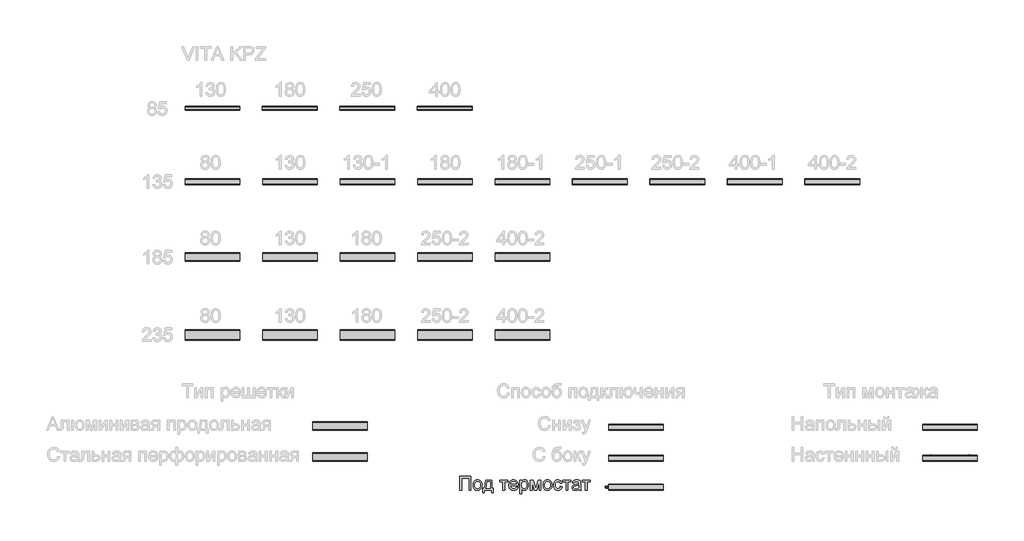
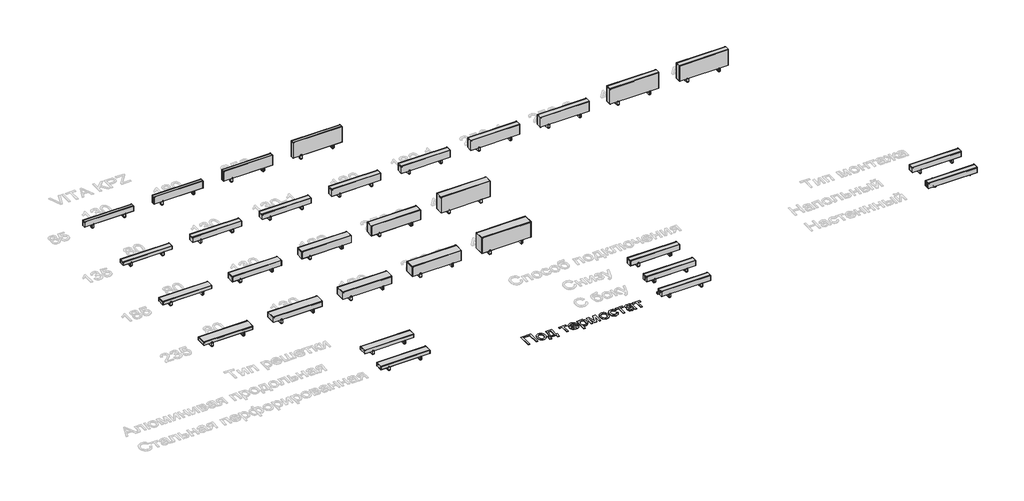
# One storey, part 1 of 7: 61 proxies.
"""IFC4 building model written with IfcOpenShell, lengths in millimetres."""

from ifc_helpers import new_model, si_unit, origin, origin_with_axes, place, context, project, spatial, polyline, outline, extrude, transform, mapped, element, save
from components import mechanical_equipment_40654a80, mechanical_equipment_db04607c, mechanical_equipment_164f5ea8, mechanical_equipment_e0287927, mechanical_equipment_76ebc389, mechanical_equipment_0ab18733, mechanical_equipment_10a3fbf6, mechanical_equipment_058be763, mechanical_equipment_164569aa, mechanical_equipment_349224de, mechanical_equipment_2dd0603b, mechanical_equipment_47e8f98e, mechanical_equipment_bd93af03, mechanical_equipment_14c08a24, mechanical_equipment_f7afe81f, mechanical_equipment_9682c6bd, mechanical_equipment_25f90fc9, mechanical_equipment_933cd87b, mechanical_equipment_312a6962, mechanical_equipment_f0267359, mechanical_equipment_60c2d6ec, mechanical_equipment_5ba0c7e1, mechanical_equipment_a01b45b6, mechanical_equipment_b469c673, mechanical_equipment_51376e17, mechanical_equipment_784c2f27, mechanical_equipment_c19d1119, mechanical_equipment_4ccbe27a, mechanical_equipment_49690355, mechanical_equipment_8d609455, mechanical_equipment_16d1fad6, mechanical_equipment_ce08395b, mechanical_equipment_52e8bd0e, mechanical_equipment_f758acba, mechanical_equipment_9ef73769, mechanical_equipment_a416251b, mechanical_equipment_428bca93, mechanical_equipment_6e3047bc, mechanical_equipment_4baf3725, mechanical_equipment_82ee95b5, kpz_135_80_52dbe980, kpz_185_80_cd63fb03, kpz_235_80_92b68958, kpz_85_130_eb719850, kpz_85_180_26914a68, kpz_85_250_7eb617d8, kpz_85_400_00b2fc51

model = new_model("IFC4")

# Units and contexts
model_context = context("Model", 3, world=origin())
ifc_project = project(units=[si_unit("LENGTHUNIT", "METRE", prefix="MILLI")], contexts=[model_context])

# Site, building, storey
site = spatial("IfcSite", under=ifc_project)
building = spatial("IfcBuilding", under=site)
storey = spatial("IfcBuildingStorey", under=building, Name="Уровень 1", Elevation=0.0)

# Proxies
placement = place(None, origin())
element("IfcBuildingElementProxy", 1, Name="Текст модели 1", ObjectType="Текст модели 1", at=placement, inside=storey, context=model_context, shape_type="SweptSolid", body=[
    extrude(outline(polyline([(7154.7775288, -7880.7406166), (7390.2220057, -7880.7406166), (7390.2220057, -8182.1095471), (7352.5508894, -8182.1095471), (7352.5508894, -7918.4117329), (7192.4486451, -7918.4117329), (7192.4486451, -8182.1095471), (7154.7775288, -8182.1095471), (7154.7775288, -7880.7406166)])), origin_with_axes(), (0.0, 0.0, 1.0), 10.0),
    extrude(outline(polyline([(7442.0197907, -8071.4506429), (7444.0569372, -8042.788037), (7450.1683769, -8018.0893595), (7460.3541096, -7997.3546106), (7474.6141354, -7980.5837901), (7488.9707303, -7969.8646285), (7504.8172472, -7962.2080845), (7522.1536863, -7957.6141581), (7540.9800474, -7956.0828492), (7561.7630808, -7957.9475511), (7580.554953, -7963.5416567), (7597.3556639, -7972.865166), (7612.1652134, -7985.9180791), (7624.2524362, -8002.2589374), (7632.8861668, -8021.4462827), (7638.0664052, -8043.480115), (7639.7931513, -8068.3604342), (7636.7397307, -8106.4178266), (7627.579469, -8135.3885337), (7612.5790807, -8157.0843744), (7592.0052801, -8173.3171674), (7567.5687186, -8183.4431193), (7540.9800474, -8186.8184366), (7519.8935113, -8184.9606325), (7500.9268951, -8179.3872203), (7484.080199, -8170.0981999), (7469.3534229, -8157.0935714), (7457.3949588, -8140.5940639), (7448.8531987, -8120.8204067), (7443.7281427, -8097.7725997), (7442.0197907, -8071.4506429)]), holes=[polyline([(7479.690907, -8071.3770665), (7484.0503086, -8105.4705304), (7497.1285135, -8129.7599392), (7516.8102003, -8144.300475), (7540.9800474, -8149.1473203), (7565.0395299, -8144.2728839), (7584.6844284, -8129.6495746), (7597.7626333, -8105.0382691), (7602.122035, -8070.1998442), (7597.7350422, -8037.0996616), (7584.5740638, -8013.1413467), (7564.9015741, -7998.6008108), (7540.9800474, -7993.7539656), (7516.8102003, -7998.5824167), (7497.1285135, -8013.0677703), (7484.0503086, -8037.3019967), (7479.690907, -8071.3770665)])]), origin_with_axes(), (0.0, 0.0, 1.0), 10.0),
    extrude(outline(polyline([(7715.1353839, -7960.7917388), (7856.40207, -7960.7917388), (7856.40207, -8144.4384308), (7884.6554073, -8144.4384308), (7884.6554073, -8243.3251111), (7846.984291, -8243.3251111), (7846.984291, -8182.1095471), (7691.5909362, -8182.1095471), (7691.5909362, -8243.3251111), (7653.9198199, -8243.3251111), (7653.9198199, -8144.4384308), (7677.4642676, -8144.4384308), (7694.5799774, -8113.508752), (7706.5637334, -8072.5910771), (7713.4155356, -8021.685406), (7715.1353839, -7960.7917388)]), holes=[polyline([(7748.0976107, -7998.4628551), (7745.0074019, -8044.5860602), (7739.2684428, -8084.2897246), (7730.8807333, -8117.5738481), (7719.8442734, -8144.4384308), (7818.7309537, -8144.4384308), (7818.7309537, -7998.4628551), (7748.0976107, -7998.4628551)])]), origin_with_axes(), (0.0, 0.0, 1.0), 10.0),
    extrude(outline(polyline([(8025.9220934, -7960.7917388), (8204.8598959, -7960.7917388), (8204.8598959, -7998.4628551), (8134.2265528, -7998.4628551), (8134.2265528, -8182.1095471), (8096.5554365, -8182.1095471), (8096.5554365, -7998.4628551), (8025.9220934, -7998.4628551), (8025.9220934, -7960.7917388)])), origin_with_axes(), (0.0, 0.0, 1.0), 10.0),
    extrude(outline(polyline([(8392.774019, -8116.1850935), (8429.7093713, -8120.8939831), (8416.4012401, -8148.724256), (8395.165252, -8169.5279828), (8366.4796534, -8182.4958232), (8330.822691, -8186.8184366), (8307.4483887, -8184.9537348), (8286.6216693, -8179.3596292), (8268.3425327, -8170.0361199), (8252.6109788, -8156.9832068), (8239.9604367, -8140.5641735), (8230.9243352, -8121.1423034), (8225.5026743, -8098.7175966), (8223.695454, -8073.2900529), (8225.5210684, -8047.0002858), (8230.9979116, -8023.8283187), (8240.1259836, -8003.7741514), (8252.9052844, -7986.837784), (8268.5954515, -7973.3825001), (8286.4561224, -7963.7715829), (8306.487297, -7958.0050327), (8328.6889754, -7956.0828492), (8350.1755832, -7958.0004341), (8369.6066504, -7963.7531888), (8386.9821768, -7973.3411133), (8402.3021627, -7986.7642076), (8414.8078513, -8003.6637868), (8423.7404859, -8023.6811659), (8429.1000668, -8046.8163448), (8430.8865937, -8073.0693237), (8430.6658645, -8083.2228668), (8261.3665703, -8083.2228668), (8267.8872787, -8111.4210217), (8283.0348198, -8132.1511721), (8304.8962074, -8144.8982833), (8331.558455, -8149.1473203), (8351.6080237, -8147.1791516), (8368.4938073, -8141.2746456), (8382.2158057, -8131.0659203), (8392.774019, -8116.1850935)]), holes=[polyline([(8261.3665703, -8045.5517505), (8393.2154774, -8045.5517505), (8388.1203118, -8025.6493345), (8378.1323156, -8011.4123013), (8356.1697605, -7998.1685495), (8328.5418226, -7993.7539656), (8303.1487679, -7997.2764357), (8282.1519031, -8007.843846), (8267.5561849, -8024.3157623), (8261.3665703, -8045.5517505)])]), origin_with_axes(), (0.0, 0.0, 1.0), 10.0),
    extrude(outline(polyline([(8468.55771, -8266.8695588), (8468.55771, -7960.7917388), (8506.2288263, -7960.7917388), (8506.2288263, -7997.7270911), (8518.516085, -7979.5077353), (8532.2748716, -7966.4939097), (8548.3145266, -7958.6856144), (8567.4443903, -7956.0828492), (8592.9202185, -7959.724881), (8615.1954733, -7970.6509763), (8633.3320556, -7988.1989474), (8646.3918665, -8011.7066069), (8654.2829353, -8039.4633035), (8656.9132915, -8069.7583858), (8653.9426444, -8101.9756515), (8645.0307031, -8130.7900088), (8630.4625761, -8154.7391266), (8610.5233719, -8172.3606742), (8587.300821, -8183.203996), (8562.8826536, -8186.8184366), (8545.5646086, -8184.3996125), (8530.1043678, -8177.1431401), (8516.869813, -8166.1894537), (8506.2288263, -8152.6789875), (8506.2288263, -8266.8695588), (8468.55771, -8266.8695588)]), holes=[polyline([(8506.2288263, -8073.2164765), (8510.3031194, -8106.9880437), (8522.5259987, -8130.6060678), (8540.5614135, -8144.5120072), (8562.0733132, -8149.1473203), (8583.9347007, -8144.3464603), (8602.4299681, -8129.9438802), (8615.0391234, -8105.4613334), (8619.2421752, -8070.4205733), (8615.140291, -8036.8329472), (8602.8346382, -8012.8838293), (8584.8268146, -7998.5364315), (8563.6184176, -7993.7539656), (8542.3272471, -7998.8399341), (8523.6296447, -8014.0978399), (8510.5790309, -8039.0494362), (8506.2288263, -8073.2164765)])]), origin_with_axes(), (0.0, 0.0, 1.0), 10.0),
    extrude(outline(polyline([(8699.2932974, -7960.7917388), (8764.1141049, -7960.7917388), (8814.0724799, -8137.9637077), (8867.930404, -7960.7917388), (8930.0288848, -7960.7917388), (8930.0288848, -8182.1095471), (8892.3577685, -8182.1095471), (8892.3577685, -8003.9075086), (8838.2055388, -8182.1095471), (8788.7621986, -8182.1095471), (8736.9644137, -7995.3726463), (8736.9644137, -8182.1095471), (8699.2932974, -8182.1095471), (8699.2932974, -7960.7917388)])), origin_with_axes(), (0.0, 0.0, 1.0), 10.0),
    extrude(outline(polyline([(8977.1177801, -8071.4506429), (8979.1549267, -8042.788037), (8985.2663663, -8018.0893595), (8995.4520991, -7997.3546106), (9009.7121249, -7980.5837901), (9024.0687198, -7969.8646285), (9039.9152367, -7962.2080845), (9057.2516757, -7957.6141581), (9076.0780368, -7956.0828492), (9096.8610703, -7957.9475511), (9115.6529425, -7963.5416567), (9132.4536533, -7972.865166), (9147.2632029, -7985.9180791), (9159.3504257, -8002.2589374), (9167.9841563, -8021.4462827), (9173.1643946, -8043.480115), (9174.8911407, -8068.3604342), (9171.8377202, -8106.4178266), (9162.6774585, -8135.3885337), (9147.6770702, -8157.0843744), (9127.1032696, -8173.3171674), (9102.666708, -8183.4431193), (9076.0780368, -8186.8184366), (9054.9915007, -8184.9606325), (9036.0248846, -8179.3872203), (9019.1781885, -8170.0981999), (9004.4514124, -8157.0935714), (8992.4929483, -8140.5940639), (8983.9511882, -8120.8204067), (8978.8261322, -8097.7725997), (8977.1177801, -8071.4506429)]), holes=[polyline([(9014.7888964, -8071.3770665), (9019.1482981, -8105.4705304), (9032.226503, -8129.7599392), (9051.9081898, -8144.300475), (9076.0780368, -8149.1473203), (9100.1375193, -8144.2728839), (9119.7824179, -8129.6495746), (9132.8606228, -8105.0382691), (9137.2200244, -8070.1998442), (9132.8330317, -8037.0996616), (9119.6720533, -8013.1413467), (9099.9995636, -7998.6008108), (9076.0780368, -7993.7539656), (9051.9081898, -7998.5824167), (9032.226503, -8013.0677703), (9019.1482981, -8037.3019967), (9014.7888964, -8071.3770665)])]), origin_with_axes(), (0.0, 0.0, 1.0), 10.0),
    extrude(outline(polyline([(9358.5378327, -8102.0584249), (9396.208949, -8106.7673145), (9385.7059181, -8140.2721672), (9365.969049, -8165.5916455), (9338.856146, -8181.5117388), (9306.225013, -8186.8184366), (9285.0970902, -8184.9675303), (9266.1534667, -8179.4148115), (9249.3941426, -8170.16028), (9234.8191178, -8157.203936), (9223.021602, -8140.7895012), (9214.5948051, -8121.1606975), (9209.5387269, -8098.3175249), (9207.8533675, -8072.2599833), (9210.7320441, -8038.7367365), (9219.368074, -8009.6832559), (9233.8994128, -7986.2215817), (9254.4640163, -7969.4737539), (9279.0661247, -7959.4305754), (9305.7099782, -7956.0828492), (9337.5409679, -7960.6813742), (9362.9892049, -7974.476949), (9381.2453489, -7996.7338097), (9391.5000595, -8026.7161923), (9353.8289432, -8031.4250819), (9346.9955351, -8014.9899537), (9336.3545484, -8003.2085328), (9322.4945943, -7996.1176074), (9306.0042838, -7993.7539656), (9281.6596928, -7998.4076728), (9262.336691, -8012.3687945), (9249.7275356, -8036.3914888), (9245.5244838, -8071.2299137), (9249.6355651, -8106.5373882), (9261.968809, -8130.642856), (9280.9423229, -8144.5212042), (9304.9742142, -8149.1473203), (9324.481157, -8146.2594467), (9340.4748268, -8137.5958257), (9352.1090949, -8122.9357282), (9358.5378327, -8102.0584249)])), origin_with_axes(), (0.0, 0.0, 1.0), 10.0),
    extrude(outline(polyline([(9410.3356177, -7960.7917388), (9589.2734201, -7960.7917388), (9589.2734201, -7998.4628551), (9518.640077, -7998.4628551), (9518.640077, -8182.1095471), (9480.9689607, -8182.1095471), (9480.9689607, -7998.4628551), (9410.3356177, -7998.4628551), (9410.3356177, -7960.7917388)])), origin_with_axes(), (0.0, 0.0, 1.0), 10.0),
    extrude(outline(polyline([(9763.502333, -8153.8562099), (9745.5037064, -8169.2888596), (9726.9716509, -8179.3872203), (9707.4831022, -8184.9606325), (9686.614996, -8186.8184366), (9655.1334943, -8182.3486704), (9631.9109434, -8168.9393717), (9617.5911367, -8148.5771032), (9612.8178678, -8123.2484279), (9614.6204896, -8107.6318372), (9620.0283549, -8093.4499862), (9628.3700792, -8081.3098804), (9638.9742777, -8071.8185249), (9665.3514167, -8059.4576899), (9697.9457615, -8053.7923072), (9736.4630064, -8047.8326188), (9763.2816038, -8040.8428609), (9763.502333, -8032.4551514), (9760.908765, -8015.6429443), (9753.1280608, -8004.6432726), (9735.7272424, -7996.4762923), (9711.4838189, -7993.7539656), (9689.0430172, -7995.5657844), (9673.3712442, -8001.0012409), (9662.6842723, -8011.0536164), (9655.1978737, -8026.7161923), (9617.5267573, -8022.0073028), (9624.0658598, -8001.4059111), (9633.8239297, -7985.2191033), (9647.711475, -7972.8398741), (9666.6390037, -7963.6612183), (9689.7879782, -7957.9774415), (9716.3398612, -7956.0828492), (9741.8064924, -7957.7567123), (9761.9940169, -7962.7783016), (9777.2151344, -7970.3290795), (9787.7825447, -7979.5905087), (9794.7906967, -7991.0408358), (9799.3340394, -8005.1583074), (9801.1734493, -8038.1205342), (9801.1734493, -8084.9887004), (9803.0864357, -8150.4349073), (9810.5912284, -8182.1095471), (9772.9201121, -8182.1095471), (9763.502333, -8153.8562099)]), holes=[polyline([(9763.502333, -8078.5139772), (9702.7282274, -8090.0654719), (9670.3178237, -8096.172313), (9655.639332, -8106.1051269), (9650.4889841, -8120.5996775), (9653.2940843, -8131.8016842), (9661.709385, -8140.98034), (9675.550945, -8147.1055752), (9694.6348235, -8149.1473203), (9714.8683333, -8146.8940431), (9732.7473982, -8140.1342114), (9747.2419488, -8130.1738064), (9757.3219155, -8118.3188091), (9761.7916818, -8106.1051269), (9763.2816038, -8089.1825551), (9763.502333, -8078.5139772)])]), origin_with_axes(), (0.0, 0.0, 1.0), 10.0),
    extrude(outline(polyline([(9834.1356761, -7960.7917388), (10013.0734786, -7960.7917388), (10013.0734786, -7998.4628551), (9942.4401355, -7998.4628551), (9942.4401355, -8182.1095471), (9904.7690192, -8182.1095471), (9904.7690192, -7998.4628551), (9834.1356761, -7998.4628551), (9834.1356761, -7960.7917388)])), origin_with_axes(), (0.0, 0.0, 1.0), 10.0),
])
mechanical_equipment_shape = mechanical_equipment_40654a80(model_context)
element("IfcBuildingElementProxy", 2, Name="Vita_Решетка : РАП_Алюминиевая продольная", ObjectType="Vita_Решетка : РАП_Алюминиевая продольная", at=placement, inside=storey, context=model_context, shape_type="MappedRepresentation", body=[
    mapped(mechanical_equipment_shape, transform((1722.9108966, 336.4889515, 0.0), x_axis=(1.0, 0.0, 0.0), y_axis=(0.0, 1.0, 0.0), z_axis=(0.0, 0.0, 1.0))),
])
mechanical_equipment_2_shape = mechanical_equipment_db04607c(model_context)
element("IfcBuildingElementProxy", 3, Name="Vita_Решетка : РАП_Алюминиевая продольная", ObjectType="Vita_Решетка : РАП_Алюминиевая продольная", at=placement, inside=storey, context=model_context, shape_type="MappedRepresentation", body=[
    mapped(mechanical_equipment_2_shape, transform((3418.9108966, 336.4889515, 0.0), x_axis=(1.0, 0.0, 0.0), y_axis=(0.0, 1.0, 0.0), z_axis=(0.0, 0.0, 1.0))),
])
mechanical_equipment_3_shape = mechanical_equipment_164f5ea8(model_context)
element("IfcBuildingElementProxy", 4, Name="Vita_Решетка : РАП_Алюминиевая продольная", ObjectType="Vita_Решетка : РАП_Алюминиевая продольная", at=placement, inside=storey, context=model_context, shape_type="MappedRepresentation", body=[
    mapped(mechanical_equipment_3_shape, transform((5118.9108966, 336.4889515, 0.0), x_axis=(1.0, 0.0, 0.0), y_axis=(0.0, 1.0, 0.0), z_axis=(0.0, 0.0, 1.0))),
])
mechanical_equipment_4_shape = mechanical_equipment_e0287927(model_context)
element("IfcBuildingElementProxy", 5, Name="Vita_Решетка : РАП_Алюминиевая продольная", ObjectType="Vita_Решетка : РАП_Алюминиевая продольная", at=placement, inside=storey, context=model_context, shape_type="MappedRepresentation", body=[
    mapped(mechanical_equipment_4_shape, transform((6818.9108966, 336.4889515, 0.0), x_axis=(1.0, 0.0, 0.0), y_axis=(0.0, 1.0, 0.0), z_axis=(0.0, 0.0, 1.0))),
])
mechanical_equipment_5_shape = mechanical_equipment_76ebc389(model_context)
element("IfcBuildingElementProxy", 6, Name="Vita_Решетка : РАП_Алюминиевая продольная", ObjectType="Vita_Решетка : РАП_Алюминиевая продольная", at=placement, inside=storey, context=model_context, shape_type="MappedRepresentation", body=[
    mapped(mechanical_equipment_5_shape, transform((1722.9108966, -1246.9833275, 0.0), x_axis=(1.0, 0.0, 0.0), y_axis=(0.0, 1.0, 0.0), z_axis=(0.0, 0.0, 1.0))),
])
mechanical_equipment_6_shape = mechanical_equipment_0ab18733(model_context)
element("IfcBuildingElementProxy", 7, Name="TECHNO_Конвектор напольный_Vita KPZ 135 : KPZ 135-130", ObjectType="TECHNO_Конвектор напольный_Vita KPZ 135 : KPZ 135-130", at=placement, inside=storey, context=model_context, shape_type="MappedRepresentation", body=[
    mapped(mechanical_equipment_6_shape, transform((3422.9108966, -1246.9833275, 0.0), x_axis=(1.0, 0.0, 0.0), y_axis=(0.0, 1.0, 0.0), z_axis=(0.0, 0.0, 1.0))),
])
element("IfcBuildingElementProxy", 8, Name="TECHNO_Конвектор напольный_Vita KPZ 135 : KPZ 135-130", ObjectType="TECHNO_Конвектор напольный_Vita KPZ 135 : KPZ 135-130", at=placement, inside=storey, context=model_context, shape_type="MappedRepresentation", body=[
    mapped(mechanical_equipment_6_shape, transform((11017.3437899, -6633.8180768, 0.0), x_axis=(1.0, 0.0, 0.0), y_axis=(0.0, 1.0, 0.0), z_axis=(0.0, 0.0, 1.0))),
])
element("IfcBuildingElementProxy", 9, Name="TECHNO_Конвектор напольный_Vita KPZ 135 : KPZ 135-130", ObjectType="TECHNO_Конвектор напольный_Vita KPZ 135 : KPZ 135-130", at=placement, inside=storey, context=model_context, shape_type="MappedRepresentation", body=[
    mapped(mechanical_equipment_6_shape, transform((17906.3437899, -6633.8180768, 0.0), x_axis=(1.0, 0.0, 0.0), y_axis=(0.0, 1.0, 0.0), z_axis=(0.0, 0.0, 1.0))),
])
mechanical_equipment_7_shape = mechanical_equipment_10a3fbf6(model_context)
element("IfcBuildingElementProxy", 10, Name="Vita_Решетка : РАП_Алюминиевая продольная", ObjectType="Vita_Решетка : РАП_Алюминиевая продольная", at=placement, inside=storey, context=model_context, shape_type="MappedRepresentation", body=[
    mapped(mechanical_equipment_7_shape, transform((3422.9108966, -1246.9833275, 0.0), x_axis=(1.0, 0.0, 0.0), y_axis=(0.0, 1.0, 0.0), z_axis=(0.0, 0.0, 1.0))),
])
element("IfcBuildingElementProxy", 11, Name="Vita_Решетка : РАП_Алюминиевая продольная", ObjectType="Vita_Решетка : РАП_Алюминиевая продольная", at=placement, inside=storey, context=model_context, shape_type="MappedRepresentation", body=[
    mapped(mechanical_equipment_7_shape, transform((5122.9108966, -1246.9833275, 0.0), x_axis=(1.0, 0.0, 0.0), y_axis=(0.0, 1.0, 0.0), z_axis=(0.0, 0.0, 1.0))),
])
element("IfcBuildingElementProxy", 12, Name="Vita_Решетка : РАП_Алюминиевая продольная", ObjectType="Vita_Решетка : РАП_Алюминиевая продольная", at=placement, inside=storey, context=model_context, shape_type="MappedRepresentation", body=[
    mapped(mechanical_equipment_7_shape, transform((11017.3437899, -6633.8180768, 0.0), x_axis=(1.0, 0.0, 0.0), y_axis=(0.0, 1.0, 0.0), z_axis=(0.0, 0.0, 1.0))),
])
element("IfcBuildingElementProxy", 13, Name="Vita_Решетка : РАП_Алюминиевая продольная", ObjectType="Vita_Решетка : РАП_Алюминиевая продольная", at=placement, inside=storey, context=model_context, shape_type="MappedRepresentation", body=[
    mapped(mechanical_equipment_7_shape, transform((11017.3437899, -7314.2691255, 0.0), x_axis=(1.0, 0.0, 0.0), y_axis=(0.0, 1.0, 0.0), z_axis=(0.0, 0.0, 1.0))),
])
element("IfcBuildingElementProxy", 14, Name="Vita_Решетка : РАП_Алюминиевая продольная", ObjectType="Vita_Решетка : РАП_Алюминиевая продольная", at=placement, inside=storey, context=model_context, shape_type="MappedRepresentation", body=[
    mapped(mechanical_equipment_7_shape, transform((11017.3437899, -7948.1095471, 0.0), x_axis=(1.0, 0.0, 0.0), y_axis=(0.0, 1.0, 0.0), z_axis=(0.0, 0.0, 1.0))),
])
element("IfcBuildingElementProxy", 15, Name="Vita_Решетка : РАП_Алюминиевая продольная", ObjectType="Vita_Решетка : РАП_Алюминиевая продольная", at=placement, inside=storey, context=model_context, shape_type="MappedRepresentation", body=[
    mapped(mechanical_equipment_7_shape, transform((17906.3437899, -6633.8180768, 0.0), x_axis=(1.0, 0.0, 0.0), y_axis=(0.0, 1.0, 0.0), z_axis=(0.0, 0.0, 1.0))),
])
mechanical_equipment_8_shape = mechanical_equipment_058be763(model_context)
element("IfcBuildingElementProxy", 16, Name="TECHNO_Конвектор напольный_Vita KPZ 135 : KPZ 135-130-1", ObjectType="TECHNO_Конвектор напольный_Vita KPZ 135 : KPZ 135-130-1", at=placement, inside=storey, context=model_context, shape_type="MappedRepresentation", body=[
    mapped(mechanical_equipment_8_shape, transform((5122.9108966, -1246.9833275, 0.0), x_axis=(1.0, 0.0, 0.0), y_axis=(0.0, 1.0, 0.0), z_axis=(0.0, 0.0, 1.0))),
])
mechanical_equipment_9_shape = mechanical_equipment_164569aa(model_context)
element("IfcBuildingElementProxy", 17, Name="TECHNO_Конвектор напольный_Vita KPZ 135 : KPZ 135-180", ObjectType="TECHNO_Конвектор напольный_Vita KPZ 135 : KPZ 135-180", at=placement, inside=storey, context=model_context, shape_type="MappedRepresentation", body=[
    mapped(mechanical_equipment_9_shape, transform((6822.9108966, -1246.9833275, 0.0), x_axis=(1.0, 0.0, 0.0), y_axis=(0.0, 1.0, 0.0), z_axis=(0.0, 0.0, 1.0))),
])
mechanical_equipment_10_shape = mechanical_equipment_349224de(model_context)
element("IfcBuildingElementProxy", 18, Name="Vita_Решетка : РАП_Алюминиевая продольная", ObjectType="Vita_Решетка : РАП_Алюминиевая продольная", at=placement, inside=storey, context=model_context, shape_type="MappedRepresentation", body=[
    mapped(mechanical_equipment_10_shape, transform((6822.9108966, -1246.9833275, 0.0), x_axis=(1.0, 0.0, 0.0), y_axis=(0.0, 1.0, 0.0), z_axis=(0.0, 0.0, 1.0))),
])
element("IfcBuildingElementProxy", 19, Name="Vita_Решетка : РАП_Алюминиевая продольная", ObjectType="Vita_Решетка : РАП_Алюминиевая продольная", at=placement, inside=storey, context=model_context, shape_type="MappedRepresentation", body=[
    mapped(mechanical_equipment_10_shape, transform((8522.9108966, -1246.9833275, 0.0), x_axis=(1.0, 0.0, 0.0), y_axis=(0.0, 1.0, 0.0), z_axis=(0.0, 0.0, 1.0))),
])
mechanical_equipment_11_shape = mechanical_equipment_2dd0603b(model_context)
element("IfcBuildingElementProxy", 20, Name="TECHNO_Конвектор напольный_Vita KPZ 135 : KPZ 135-180-1", ObjectType="TECHNO_Конвектор напольный_Vita KPZ 135 : KPZ 135-180-1", at=placement, inside=storey, context=model_context, shape_type="MappedRepresentation", body=[
    mapped(mechanical_equipment_11_shape, transform((8522.9108966, -1246.9833275, 0.0), x_axis=(1.0, 0.0, 0.0), y_axis=(0.0, 1.0, 0.0), z_axis=(0.0, 0.0, 1.0))),
])
mechanical_equipment_12_shape = mechanical_equipment_47e8f98e(model_context)
element("IfcBuildingElementProxy", 21, Name="TECHNO_Конвектор напольный_Vita KPZ 135 : KPZ 135-250-1", ObjectType="TECHNO_Конвектор напольный_Vita KPZ 135 : KPZ 135-250-1", at=placement, inside=storey, context=model_context, shape_type="MappedRepresentation", body=[
    mapped(mechanical_equipment_12_shape, transform((10222.9108966, -1246.9833275, 0.0), x_axis=(1.0, 0.0, 0.0), y_axis=(0.0, 1.0, 0.0), z_axis=(0.0, 0.0, 1.0))),
])
mechanical_equipment_13_shape = mechanical_equipment_bd93af03(model_context)
element("IfcBuildingElementProxy", 22, Name="Vita_Решетка : РАП_Алюминиевая продольная", ObjectType="Vita_Решетка : РАП_Алюминиевая продольная", at=placement, inside=storey, context=model_context, shape_type="MappedRepresentation", body=[
    mapped(mechanical_equipment_13_shape, transform((10222.9108966, -1246.9833275, 0.0), x_axis=(1.0, 0.0, 0.0), y_axis=(0.0, 1.0, 0.0), z_axis=(0.0, 0.0, 1.0))),
])
element("IfcBuildingElementProxy", 23, Name="Vita_Решетка : РАП_Алюминиевая продольная", ObjectType="Vita_Решетка : РАП_Алюминиевая продольная", at=placement, inside=storey, context=model_context, shape_type="MappedRepresentation", body=[
    mapped(mechanical_equipment_13_shape, transform((11922.9108966, -1246.9833275, 0.0), x_axis=(1.0, 0.0, 0.0), y_axis=(0.0, 1.0, 0.0), z_axis=(0.0, 0.0, 1.0))),
])
mechanical_equipment_14_shape = mechanical_equipment_14c08a24(model_context)
element("IfcBuildingElementProxy", 24, Name="TECHNO_Конвектор напольный_Vita KPZ 135 : KPZ 135-250-2", ObjectType="TECHNO_Конвектор напольный_Vita KPZ 135 : KPZ 135-250-2", at=placement, inside=storey, context=model_context, shape_type="MappedRepresentation", body=[
    mapped(mechanical_equipment_14_shape, transform((11922.9108966, -1246.9833275, 0.0), x_axis=(1.0, 0.0, 0.0), y_axis=(0.0, 1.0, 0.0), z_axis=(0.0, 0.0, 1.0))),
])
mechanical_equipment_15_shape = mechanical_equipment_f7afe81f(model_context)
element("IfcBuildingElementProxy", 25, Name="TECHNO_Конвектор напольный_Vita KPZ 135 : KPZ 135-400-1", ObjectType="TECHNO_Конвектор напольный_Vita KPZ 135 : KPZ 135-400-1", at=placement, inside=storey, context=model_context, shape_type="MappedRepresentation", body=[
    mapped(mechanical_equipment_15_shape, transform((13622.9108966, -1246.9833275, 0.0), x_axis=(1.0, 0.0, 0.0), y_axis=(0.0, 1.0, 0.0), z_axis=(0.0, 0.0, 1.0))),
])
mechanical_equipment_16_shape = mechanical_equipment_9682c6bd(model_context)
element("IfcBuildingElementProxy", 26, Name="Vita_Решетка : РАП_Алюминиевая продольная", ObjectType="Vita_Решетка : РАП_Алюминиевая продольная", at=placement, inside=storey, context=model_context, shape_type="MappedRepresentation", body=[
    mapped(mechanical_equipment_16_shape, transform((13622.9108966, -1246.9833275, 0.0), x_axis=(1.0, 0.0, 0.0), y_axis=(0.0, 1.0, 0.0), z_axis=(0.0, 0.0, 1.0))),
])
element("IfcBuildingElementProxy", 27, Name="Vita_Решетка : РАП_Алюминиевая продольная", ObjectType="Vita_Решетка : РАП_Алюминиевая продольная", at=placement, inside=storey, context=model_context, shape_type="MappedRepresentation", body=[
    mapped(mechanical_equipment_16_shape, transform((15322.9108966, -1246.9833275, 0.0), x_axis=(1.0, 0.0, 0.0), y_axis=(0.0, 1.0, 0.0), z_axis=(0.0, 0.0, 1.0))),
])
mechanical_equipment_17_shape = mechanical_equipment_25f90fc9(model_context)
element("IfcBuildingElementProxy", 28, Name="TECHNO_Конвектор напольный_Vita KPZ 135 : KPZ 135-400-2", ObjectType="TECHNO_Конвектор напольный_Vita KPZ 135 : KPZ 135-400-2", at=placement, inside=storey, context=model_context, shape_type="MappedRepresentation", body=[
    mapped(mechanical_equipment_17_shape, transform((15322.9108966, -1246.9833275, 0.0), x_axis=(1.0, 0.0, 0.0), y_axis=(0.0, 1.0, 0.0), z_axis=(0.0, 0.0, 1.0))),
])
mechanical_equipment_18_shape = mechanical_equipment_933cd87b(model_context)
element("IfcBuildingElementProxy", 29, Name="TECHNO_Конвектор напольный_Vita KPZ 185 : KPZ 185-130", ObjectType="TECHNO_Конвектор напольный_Vita KPZ 185 : KPZ 185-130", at=placement, inside=storey, context=model_context, shape_type="MappedRepresentation", body=[
    mapped(mechanical_equipment_18_shape, transform((3422.9108966, -2880.1316734, 0.0), x_axis=(1.0, 0.0, 0.0), y_axis=(0.0, 1.0, 0.0), z_axis=(0.0, 0.0, 1.0))),
])
mechanical_equipment_19_shape = mechanical_equipment_312a6962(model_context)
element("IfcBuildingElementProxy", 30, Name="Vita_Решетка : РАП_Алюминиевая продольная", ObjectType="Vita_Решетка : РАП_Алюминиевая продольная", at=placement, inside=storey, context=model_context, shape_type="MappedRepresentation", body=[
    mapped(mechanical_equipment_19_shape, transform((3422.9108966, -2880.1316734, 0.0), x_axis=(1.0, 0.0, 0.0), y_axis=(0.0, 1.0, 0.0), z_axis=(0.0, 0.0, 1.0))),
])
mechanical_equipment_20_shape = mechanical_equipment_f0267359(model_context)
element("IfcBuildingElementProxy", 31, Name="TECHNO_Конвектор напольный_Vita KPZ 235 : KPZ 235-130", ObjectType="TECHNO_Конвектор напольный_Vita KPZ 235 : KPZ 235-130", at=placement, inside=storey, context=model_context, shape_type="MappedRepresentation", body=[
    mapped(mechanical_equipment_20_shape, transform((3422.9108966, -4562.941851, 0.0), x_axis=(1.0, 0.0, 0.0), y_axis=(0.0, 1.0, 0.0), z_axis=(0.0, 0.0, 1.0))),
])
mechanical_equipment_21_shape = mechanical_equipment_60c2d6ec(model_context)
element("IfcBuildingElementProxy", 32, Name="Vita_Решетка : РАП_Алюминиевая продольная", ObjectType="Vita_Решетка : РАП_Алюминиевая продольная", at=placement, inside=storey, context=model_context, shape_type="MappedRepresentation", body=[
    mapped(mechanical_equipment_21_shape, transform((3422.9108966, -4562.941851, 0.0), x_axis=(1.0, 0.0, 0.0), y_axis=(0.0, 1.0, 0.0), z_axis=(0.0, 0.0, 1.0))),
])
mechanical_equipment_22_shape = mechanical_equipment_5ba0c7e1(model_context)
element("IfcBuildingElementProxy", 33, Name="Vita_Решетка : РАП_Алюминиевая продольная", ObjectType="Vita_Решетка : РАП_Алюминиевая продольная", at=placement, inside=storey, context=model_context, shape_type="MappedRepresentation", body=[
    mapped(mechanical_equipment_22_shape, transform((1722.9108966, -2880.1316734, 0.0), x_axis=(1.0, 0.0, 0.0), y_axis=(0.0, 1.0, 0.0), z_axis=(0.0, 0.0, 1.0))),
])
element("IfcBuildingElementProxy", 34, Name="Vita_Решетка : РАП_Алюминиевая продольная", ObjectType="Vita_Решетка : РАП_Алюминиевая продольная", at=placement, inside=storey, context=model_context, shape_type="MappedRepresentation", body=[
    mapped(mechanical_equipment_22_shape, transform((4522.9108966, -6580.1316734, 0.0), x_axis=(1.0, 0.0, 0.0), y_axis=(0.0, 1.0, 0.0), z_axis=(0.0, 0.0, 1.0))),
])
mechanical_equipment_23_shape = mechanical_equipment_a01b45b6(model_context)
element("IfcBuildingElementProxy", 35, Name="TECHNO_Конвектор напольный_Vita KPZ 185 : KPZ 185-180", ObjectType="TECHNO_Конвектор напольный_Vita KPZ 185 : KPZ 185-180", at=placement, inside=storey, context=model_context, shape_type="MappedRepresentation", body=[
    mapped(mechanical_equipment_23_shape, transform((5122.9108966, -2880.1316734, 0.0), x_axis=(1.0, 0.0, 0.0), y_axis=(0.0, 1.0, 0.0), z_axis=(0.0, 0.0, 1.0))),
])
mechanical_equipment_24_shape = mechanical_equipment_b469c673(model_context)
element("IfcBuildingElementProxy", 36, Name="Vita_Решетка : РАП_Алюминиевая продольная", ObjectType="Vita_Решетка : РАП_Алюминиевая продольная", at=placement, inside=storey, context=model_context, shape_type="MappedRepresentation", body=[
    mapped(mechanical_equipment_24_shape, transform((5122.9108966, -2880.1316734, 0.0), x_axis=(1.0, 0.0, 0.0), y_axis=(0.0, 1.0, 0.0), z_axis=(0.0, 0.0, 1.0))),
])
mechanical_equipment_25_shape = mechanical_equipment_51376e17(model_context)
element("IfcBuildingElementProxy", 37, Name="TECHNO_Конвектор напольный_Vita KPZ 185 : KPZ 185-250-2", ObjectType="TECHNO_Конвектор напольный_Vita KPZ 185 : KPZ 185-250-2", at=placement, inside=storey, context=model_context, shape_type="MappedRepresentation", body=[
    mapped(mechanical_equipment_25_shape, transform((6822.9108966, -2880.1316734, 0.0), x_axis=(1.0, 0.0, 0.0), y_axis=(0.0, 1.0, 0.0), z_axis=(0.0, 0.0, 1.0))),
])
mechanical_equipment_26_shape = mechanical_equipment_784c2f27(model_context)
element("IfcBuildingElementProxy", 38, Name="Vita_Решетка : РАП_Алюминиевая продольная", ObjectType="Vita_Решетка : РАП_Алюминиевая продольная", at=placement, inside=storey, context=model_context, shape_type="MappedRepresentation", body=[
    mapped(mechanical_equipment_26_shape, transform((6822.9108966, -2880.1316734, 0.0), x_axis=(1.0, 0.0, 0.0), y_axis=(0.0, 1.0, 0.0), z_axis=(0.0, 0.0, 1.0))),
])
mechanical_equipment_27_shape = mechanical_equipment_c19d1119(model_context)
element("IfcBuildingElementProxy", 39, Name="TECHNO_Конвектор напольный_Vita KPZ 185 : KPZ 185-400-2", ObjectType="TECHNO_Конвектор напольный_Vita KPZ 185 : KPZ 185-400-2", at=placement, inside=storey, context=model_context, shape_type="MappedRepresentation", body=[
    mapped(mechanical_equipment_27_shape, transform((8522.9108966, -2880.1316734, 0.0), x_axis=(1.0, 0.0, 0.0), y_axis=(0.0, 1.0, 0.0), z_axis=(0.0, 0.0, 1.0))),
])
mechanical_equipment_28_shape = mechanical_equipment_4ccbe27a(model_context)
element("IfcBuildingElementProxy", 40, Name="Vita_Решетка : РАП_Алюминиевая продольная", ObjectType="Vita_Решетка : РАП_Алюминиевая продольная", at=placement, inside=storey, context=model_context, shape_type="MappedRepresentation", body=[
    mapped(mechanical_equipment_28_shape, transform((8522.9108966, -2880.1316734, 0.0), x_axis=(1.0, 0.0, 0.0), y_axis=(0.0, 1.0, 0.0), z_axis=(0.0, 0.0, 1.0))),
])
mechanical_equipment_29_shape = mechanical_equipment_49690355(model_context)
element("IfcBuildingElementProxy", 41, Name="Vita_Решетка : РАП_Алюминиевая продольная", ObjectType="Vita_Решетка : РАП_Алюминиевая продольная", at=placement, inside=storey, context=model_context, shape_type="MappedRepresentation", body=[
    mapped(mechanical_equipment_29_shape, transform((1722.9108966, -4562.941851, 0.0), x_axis=(1.0, 0.0, 0.0), y_axis=(0.0, 1.0, 0.0), z_axis=(0.0, 0.0, 1.0))),
])
mechanical_equipment_30_shape = mechanical_equipment_8d609455(model_context)
element("IfcBuildingElementProxy", 42, Name="TECHNO_Конвектор напольный_Vita KPZ 235 : KPZ 235-180", ObjectType="TECHNO_Конвектор напольный_Vita KPZ 235 : KPZ 235-180", at=placement, inside=storey, context=model_context, shape_type="MappedRepresentation", body=[
    mapped(mechanical_equipment_30_shape, transform((5122.9108966, -4562.941851, 0.0), x_axis=(1.0, 0.0, 0.0), y_axis=(0.0, 1.0, 0.0), z_axis=(0.0, 0.0, 1.0))),
])
mechanical_equipment_31_shape = mechanical_equipment_16d1fad6(model_context)
element("IfcBuildingElementProxy", 43, Name="Vita_Решетка : РАП_Алюминиевая продольная", ObjectType="Vita_Решетка : РАП_Алюминиевая продольная", at=placement, inside=storey, context=model_context, shape_type="MappedRepresentation", body=[
    mapped(mechanical_equipment_31_shape, transform((5122.9108966, -4562.941851, 0.0), x_axis=(1.0, 0.0, 0.0), y_axis=(0.0, 1.0, 0.0), z_axis=(0.0, 0.0, 1.0))),
])
mechanical_equipment_32_shape = mechanical_equipment_ce08395b(model_context)
element("IfcBuildingElementProxy", 44, Name="TECHNO_Конвектор напольный_Vita KPZ 235 : KPZ 235-250-2", ObjectType="TECHNO_Конвектор напольный_Vita KPZ 235 : KPZ 235-250-2", at=placement, inside=storey, context=model_context, shape_type="MappedRepresentation", body=[
    mapped(mechanical_equipment_32_shape, transform((6822.9108966, -4562.941851, 0.0), x_axis=(1.0, 0.0, 0.0), y_axis=(0.0, 1.0, 0.0), z_axis=(0.0, 0.0, 1.0))),
])
mechanical_equipment_33_shape = mechanical_equipment_52e8bd0e(model_context)
element("IfcBuildingElementProxy", 45, Name="Vita_Решетка : РАП_Алюминиевая продольная", ObjectType="Vita_Решетка : РАП_Алюминиевая продольная", at=placement, inside=storey, context=model_context, shape_type="MappedRepresentation", body=[
    mapped(mechanical_equipment_33_shape, transform((6822.9108966, -4562.941851, 0.0), x_axis=(1.0, 0.0, 0.0), y_axis=(0.0, 1.0, 0.0), z_axis=(0.0, 0.0, 1.0))),
])
mechanical_equipment_34_shape = mechanical_equipment_f758acba(model_context)
element("IfcBuildingElementProxy", 46, Name="TECHNO_Конвектор напольный_Vita KPZ 235 : KPZ 235-400-2", ObjectType="TECHNO_Конвектор напольный_Vita KPZ 235 : KPZ 235-400-2", at=placement, inside=storey, context=model_context, shape_type="MappedRepresentation", body=[
    mapped(mechanical_equipment_34_shape, transform((8522.9108966, -4562.941851, 0.0), x_axis=(1.0, 0.0, 0.0), y_axis=(0.0, 1.0, 0.0), z_axis=(0.0, 0.0, 1.0))),
])
mechanical_equipment_35_shape = mechanical_equipment_9ef73769(model_context)
element("IfcBuildingElementProxy", 47, Name="Vita_Решетка : РАП_Алюминиевая продольная", ObjectType="Vita_Решетка : РАП_Алюминиевая продольная", at=placement, inside=storey, context=model_context, shape_type="MappedRepresentation", body=[
    mapped(mechanical_equipment_35_shape, transform((8522.9108966, -4562.941851, 0.0), x_axis=(1.0, 0.0, 0.0), y_axis=(0.0, 1.0, 0.0), z_axis=(0.0, 0.0, 1.0))),
])
element("IfcBuildingElementProxy", 48, Name="Vita_Решетка : РП_Перфорированная", ObjectType="Vita_Решетка : РП_Перфорированная", at=placement, inside=storey, context=model_context, shape_type="MappedRepresentation", body=[
    mapped(mechanical_equipment_22_shape, transform((4522.9108966, -7264.2691255, 0.0), x_axis=(1.0, 0.0, 0.0), y_axis=(0.0, 1.0, 0.0), z_axis=(0.0, 0.0, 1.0))),
])
mechanical_equipment_36_shape = mechanical_equipment_a416251b(model_context)
element("IfcBuildingElementProxy", 49, Name="TECHNO_Конвектор напольный_Vita KPZ 135 : KPZ 135-130", ObjectType="TECHNO_Конвектор напольный_Vita KPZ 135 : KPZ 135-130", at=placement, inside=storey, context=model_context, shape_type="MappedRepresentation", body=[
    mapped(mechanical_equipment_36_shape, transform((11017.3437899, -7314.2691255, 0.0), x_axis=(1.0, 0.0, 0.0), y_axis=(0.0, 1.0, 0.0), z_axis=(0.0, 0.0, 1.0))),
])
mechanical_equipment_37_shape = mechanical_equipment_428bca93(model_context)
mechanical_equipment_38_shape = mechanical_equipment_6e3047bc(model_context)
element("IfcBuildingElementProxy", 50, Name="TECHNO_Конвектор напольный_Vita KPZ 135 : KPZ 135-130", ObjectType="TECHNO_Конвектор напольный_Vita KPZ 135 : KPZ 135-130", at=placement, inside=storey, context=model_context, shape_type="MappedRepresentation", body=[
    mapped(mechanical_equipment_37_shape, transform((11017.3437899, -7948.1095471, 0.0), x_axis=(1.0, 0.0, 0.0), y_axis=(0.0, 1.0, 0.0), z_axis=(0.0, 0.0, 1.0))),
    mapped(mechanical_equipment_38_shape, transform((11017.3437899, -7948.1095471, 0.0), x_axis=(1.0, 0.0, 0.0), y_axis=(0.0, 1.0, 0.0), z_axis=(0.0, 0.0, 1.0))),
])
mechanical_equipment_39_shape = mechanical_equipment_4baf3725(model_context)
element("IfcBuildingElementProxy", 51, Name="TECHNO_Конвектор напольный_Vita KPZ 135 : KPZ 135-130", ObjectType="TECHNO_Конвектор напольный_Vita KPZ 135 : KPZ 135-130", at=placement, inside=storey, context=model_context, shape_type="MappedRepresentation", body=[
    mapped(mechanical_equipment_39_shape, transform((17906.3437899, -7403.4691255, 0.0), x_axis=(1.0, 0.0, 0.0), y_axis=(0.0, 1.0, 0.0), z_axis=(0.0, 0.0, 1.0))),
])
mechanical_equipment_40_shape = mechanical_equipment_82ee95b5(model_context)
element("IfcBuildingElementProxy", 52, Name="Vita_Решетка : РАП_Алюминиевая продольная", ObjectType="Vita_Решетка : РАП_Алюминиевая продольная", at=placement, inside=storey, context=model_context, shape_type="MappedRepresentation", body=[
    mapped(mechanical_equipment_40_shape, transform((17906.3437899, -7403.4691255, 0.0), x_axis=(1.0, 0.0, 0.0), y_axis=(0.0, 1.0, 0.0), z_axis=(0.0, 0.0, 1.0))),
])
kpz_135_80_shape = kpz_135_80_52dbe980(model_context)
element("IfcBuildingElementProxy", 53, Name="TECHNO_Конвектор напольный_Vita KPZ 135 : KPZ 135-80", ObjectType="TECHNO_Конвектор напольный_Vita KPZ 135 : KPZ 135-80", at=placement, inside=storey, context=model_context, shape_type="MappedRepresentation", body=[
    mapped(kpz_135_80_shape, transform((1722.9108966, -1246.9833275, 0.0), x_axis=(1.0, 0.0, 0.0), y_axis=(0.0, 1.0, 0.0), z_axis=(0.0, 0.0, 1.0))),
])
kpz_185_80_shape = kpz_185_80_cd63fb03(model_context)
element("IfcBuildingElementProxy", 54, Name="TECHNO_Конвектор напольный_Vita KPZ 185 : KPZ 185-80", ObjectType="TECHNO_Конвектор напольный_Vita KPZ 185 : KPZ 185-80", at=placement, inside=storey, context=model_context, shape_type="MappedRepresentation", body=[
    mapped(kpz_185_80_shape, transform((1722.9108966, -2880.1316734, 0.0), x_axis=(1.0, 0.0, 0.0), y_axis=(0.0, 1.0, 0.0), z_axis=(0.0, 0.0, 1.0))),
])
element("IfcBuildingElementProxy", 55, Name="TECHNO_Конвектор напольный_Vita KPZ 185 : KPZ 185-80", ObjectType="TECHNO_Конвектор напольный_Vita KPZ 185 : KPZ 185-80", at=placement, inside=storey, context=model_context, shape_type="MappedRepresentation", body=[
    mapped(kpz_185_80_shape, transform((4522.9108966, -6580.1316734, 0.0), x_axis=(1.0, 0.0, 0.0), y_axis=(0.0, 1.0, 0.0), z_axis=(0.0, 0.0, 1.0))),
])
element("IfcBuildingElementProxy", 56, Name="TECHNO_Конвектор напольный_Vita KPZ 185 : KPZ 185-80", ObjectType="TECHNO_Конвектор напольный_Vita KPZ 185 : KPZ 185-80", at=placement, inside=storey, context=model_context, shape_type="MappedRepresentation", body=[
    mapped(kpz_185_80_shape, transform((4522.9108966, -7264.2691255, 0.0), x_axis=(1.0, 0.0, 0.0), y_axis=(0.0, 1.0, 0.0), z_axis=(0.0, 0.0, 1.0))),
])
kpz_235_80_shape = kpz_235_80_92b68958(model_context)
element("IfcBuildingElementProxy", 57, Name="TECHNO_Конвектор напольный_Vita KPZ 235 : KPZ 235-80", ObjectType="TECHNO_Конвектор напольный_Vita KPZ 235 : KPZ 235-80", at=placement, inside=storey, context=model_context, shape_type="MappedRepresentation", body=[
    mapped(kpz_235_80_shape, transform((1722.9108966, -4562.941851, 0.0), x_axis=(1.0, 0.0, 0.0), y_axis=(0.0, 1.0, 0.0), z_axis=(0.0, 0.0, 1.0))),
])
kpz_85_130_shape = kpz_85_130_eb719850(model_context)
element("IfcBuildingElementProxy", 58, Name="TECHNO_Конвектор напольный_Vita KPZ 85 : KPZ 85-130", ObjectType="TECHNO_Конвектор напольный_Vita KPZ 85 : KPZ 85-130", at=placement, inside=storey, context=model_context, shape_type="MappedRepresentation", body=[
    mapped(kpz_85_130_shape, transform((1722.9108966, 336.4889515, 0.0), x_axis=(1.0, 0.0, 0.0), y_axis=(0.0, 1.0, 0.0), z_axis=(0.0, 0.0, 1.0))),
])
kpz_85_180_shape = kpz_85_180_26914a68(model_context)
element("IfcBuildingElementProxy", 59, Name="TECHNO_Конвектор напольный_Vita KPZ 85 : KPZ 85-180", ObjectType="TECHNO_Конвектор напольный_Vita KPZ 85 : KPZ 85-180", at=placement, inside=storey, context=model_context, shape_type="MappedRepresentation", body=[
    mapped(kpz_85_180_shape, transform((3418.9108966, 336.4889515, 0.0), x_axis=(1.0, 0.0, 0.0), y_axis=(0.0, 1.0, 0.0), z_axis=(0.0, 0.0, 1.0))),
])
kpz_85_250_shape = kpz_85_250_7eb617d8(model_context)
element("IfcBuildingElementProxy", 60, Name="TECHNO_Конвектор напольный_Vita KPZ 85 : KPZ 85-250", ObjectType="TECHNO_Конвектор напольный_Vita KPZ 85 : KPZ 85-250", at=placement, inside=storey, context=model_context, shape_type="MappedRepresentation", body=[
    mapped(kpz_85_250_shape, transform((5118.9108966, 336.4889515, 0.0), x_axis=(1.0, 0.0, 0.0), y_axis=(0.0, 1.0, 0.0), z_axis=(0.0, 0.0, 1.0))),
])
kpz_85_400_shape = kpz_85_400_00b2fc51(model_context)
element("IfcBuildingElementProxy", 61, Name="TECHNO_Конвектор напольный_Vita KPZ 85 : KPZ 85-400", ObjectType="TECHNO_Конвектор напольный_Vita KPZ 85 : KPZ 85-400", at=placement, inside=storey, context=model_context, shape_type="MappedRepresentation", body=[
    mapped(kpz_85_400_shape, transform((6818.9108966, 336.4889515, 0.0), x_axis=(1.0, 0.0, 0.0), y_axis=(0.0, 1.0, 0.0), z_axis=(0.0, 0.0, 1.0))),
])

save(model, "model.ifc")
